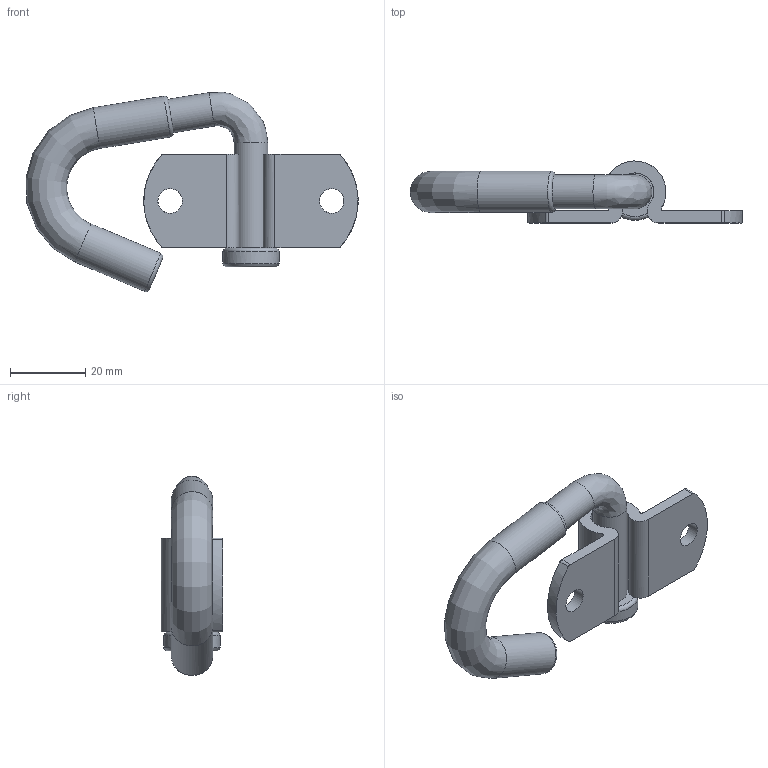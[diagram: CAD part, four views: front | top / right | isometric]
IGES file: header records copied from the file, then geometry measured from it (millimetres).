
Global section: file name: DR_TC-15; native system: Autodesk Inventor 2015; preprocessor: unknown; author: Administrator; date: 20170830.154638; units: millimetre
Bounding box: 88.33 x 16.49 x 53 mm (x, y, z)
Volume: 18320.8 mm3; surface area: 9457.3 mm2
Topology: 2 solids, 2 shells, 34 faces, 89 edges, 60 vertices
Faces by surface type: bspline 34
